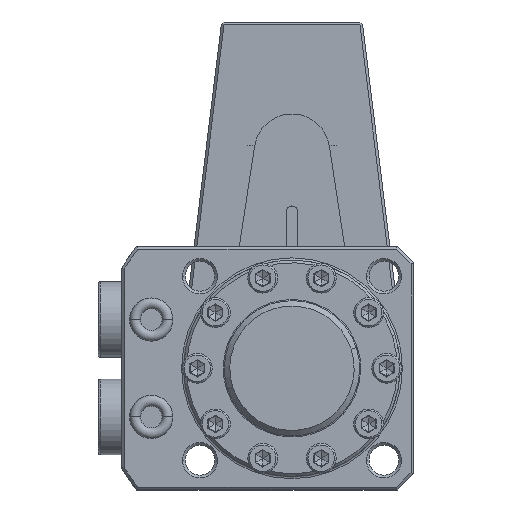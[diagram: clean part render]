
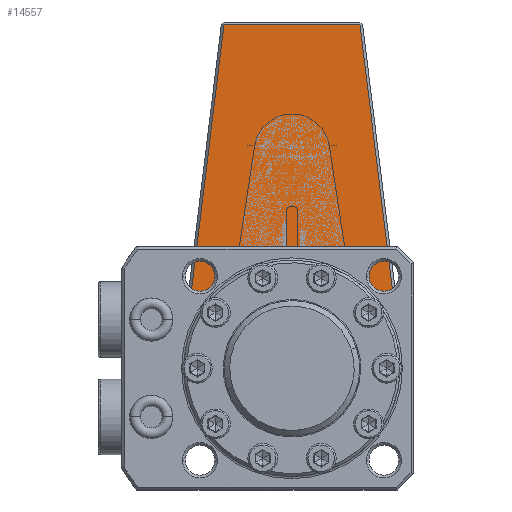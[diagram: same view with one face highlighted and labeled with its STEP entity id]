
A CAD part, front view. The second image highlights one B-rep face of the part: STEP entity #14557.
In plain terms, the highlighted planar face has unit normal (0, -1, 0).
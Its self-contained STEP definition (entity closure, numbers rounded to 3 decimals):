
#10786=DIRECTION('',(1.,0.,0.));
#10787=VECTOR('',#10786,10.824);
#10788=CARTESIAN_POINT('',(-20.5,-9.5,1.));
#10789=LINE('',#10788,#10787);
#10790=DIRECTION('',(0.,0.,-1.));
#10791=VECTOR('',#10790,10.5);
#10792=CARTESIAN_POINT('',(-20.5,-9.5,11.5));
#10793=LINE('',#10792,#10791);
#10794=DIRECTION('',(-0.707,0.,-0.707));
#10795=VECTOR('',#10794,1.414);
#10796=CARTESIAN_POINT('',(-19.5,-9.5,12.5));
#10797=LINE('',#10796,#10795);
#10798=DIRECTION('',(-1.,0.,0.));
#10799=VECTOR('',#10798,15.);
#10800=CARTESIAN_POINT('',(-4.5,-9.5,12.5));
#10801=LINE('',#10800,#10799);
#10802=DIRECTION('',(0.,0.,-1.));
#10803=VECTOR('',#10802,7.);
#10804=CARTESIAN_POINT('',(-4.5,-9.5,19.5));
#10805=LINE('',#10804,#10803);
#10806=DIRECTION('',(-1.,0.,0.));
#10807=VECTOR('',#10806,11.469);
#10808=CARTESIAN_POINT('',(6.969,-9.5,19.5));
#10809=LINE('',#10808,#10807);
#10810=DIRECTION('',(-0.993,0.,0.122));
#10811=VECTOR('',#10810,56.955);
#10812=CARTESIAN_POINT('',(63.5,-9.5,12.558));
#10813=LINE('',#10812,#10811);
#10814=DIRECTION('',(0.,0.,1.));
#10815=VECTOR('',#10814,25.115);
#10816=CARTESIAN_POINT('',(63.5,-9.5,-12.558));
#10817=LINE('',#10816,#10815);
#10818=DIRECTION('',(0.993,0.,0.122));
#10819=VECTOR('',#10818,56.955);
#10820=CARTESIAN_POINT('',(6.969,-9.5,-19.5));
#10821=LINE('',#10820,#10819);
#10822=DIRECTION('',(1.,0.,0.));
#10823=VECTOR('',#10822,11.469);
#10824=CARTESIAN_POINT('',(-4.5,-9.5,-19.5));
#10825=LINE('',#10824,#10823);
#10826=DIRECTION('',(0.,0.,-1.));
#10827=VECTOR('',#10826,7.);
#10828=CARTESIAN_POINT('',(-4.5,-9.5,-12.5));
#10829=LINE('',#10828,#10827);
#10830=DIRECTION('',(1.,0.,0.));
#10831=VECTOR('',#10830,15.);
#10832=CARTESIAN_POINT('',(-19.5,-9.5,-12.5));
#10833=LINE('',#10832,#10831);
#10834=DIRECTION('',(0.707,0.,-0.707));
#10835=VECTOR('',#10834,1.414);
#10836=CARTESIAN_POINT('',(-20.5,-9.5,-11.5));
#10837=LINE('',#10836,#10835);
#10838=DIRECTION('',(0.,0.,-1.));
#10839=VECTOR('',#10838,10.5);
#10840=CARTESIAN_POINT('',(-20.5,-9.5,-1.));
#10841=LINE('',#10840,#10839);
#10842=DIRECTION('',(1.,0.,0.));
#10843=VECTOR('',#10842,10.824);
#10844=CARTESIAN_POINT('',(-20.5,-9.5,-1.));
#10845=LINE('',#10844,#10843);
#10851=CARTESIAN_POINT('',(0.,-9.5,0.));
#10852=DIRECTION('',(0.,1.,0.));
#10853=DIRECTION('',(-0.995,0.,0.103));
#10854=AXIS2_PLACEMENT_3D('',#10851,#10852,#10853);
#10960=CARTESIAN_POINT('',(-9.676,-9.5,
-1.));
#11260=CARTESIAN_POINT('',(-9.676,-9.5,
1.));
#14209=CARTESIAN_POINT('',(-19.5,-9.5,12.5));
#14211=VERTEX_POINT('',#14209);
#14215=CARTESIAN_POINT('',(-4.5,-9.5,12.5));
#14216=VERTEX_POINT('',#14215);
#14221=CARTESIAN_POINT('',(63.5,-9.5,-12.558));
#14222=CARTESIAN_POINT('',(63.5,-9.5,12.558));
#14223=VERTEX_POINT('',#14221);
#14224=VERTEX_POINT('',#14222);
#14234=CARTESIAN_POINT('',(-19.5,-9.5,-12.5));
#14236=VERTEX_POINT('',#14234);
#14237=CARTESIAN_POINT('',(-4.5,-9.5,-12.5));
#14238=VERTEX_POINT('',#14237);
#14257=CARTESIAN_POINT('',(-20.5,-9.5,-11.5));
#14259=VERTEX_POINT('',#14257);
#14263=CARTESIAN_POINT('',(-20.5,-9.5,-1.));
#14264=VERTEX_POINT('',#14263);
#14265=CARTESIAN_POINT('',(-20.5,-9.5,1.));
#14267=VERTEX_POINT('',#14265);
#14271=CARTESIAN_POINT('',(-20.5,-9.5,11.5));
#14272=VERTEX_POINT('',#14271);
#14274=VERTEX_POINT('',#11260);
#14275=VERTEX_POINT('',#10960);
#14323=CARTESIAN_POINT('',(-4.5,-9.5,-19.5));
#14324=VERTEX_POINT('',#14323);
#14325=CARTESIAN_POINT('',(6.969,-9.5,-19.5));
#14326=VERTEX_POINT('',#14325);
#14351=CARTESIAN_POINT('',(6.969,-9.5,19.5));
#14352=VERTEX_POINT('',#14351);
#14353=CARTESIAN_POINT('',(-4.5,-9.5,19.5));
#14354=VERTEX_POINT('',#14353);
#14518=CARTESIAN_POINT('',(0.,-9.5,0.));
#14519=DIRECTION('',(0.,1.,0.));
#14520=DIRECTION('',(1.,0.,0.));
#14521=AXIS2_PLACEMENT_3D('',#14518,#14519,#14520);
#14522=PLANE('',#14521);
#14524=ORIENTED_EDGE('',*,*,#14523,.F.);
#14526=ORIENTED_EDGE('',*,*,#14525,.F.);
#14528=ORIENTED_EDGE('',*,*,#14527,.F.);
#14530=ORIENTED_EDGE('',*,*,#14529,.F.);
#14532=ORIENTED_EDGE('',*,*,#14531,.F.);
#14534=ORIENTED_EDGE('',*,*,#14533,.F.);
#14536=ORIENTED_EDGE('',*,*,#14535,.F.);
#14538=ORIENTED_EDGE('',*,*,#14537,.F.);
#14540=ORIENTED_EDGE('',*,*,#14539,.F.);
#14542=ORIENTED_EDGE('',*,*,#14541,.F.);
#14544=ORIENTED_EDGE('',*,*,#14543,.F.);
#14546=ORIENTED_EDGE('',*,*,#14545,.F.);
#14548=ORIENTED_EDGE('',*,*,#14547,.F.);
#14550=ORIENTED_EDGE('',*,*,#14549,.F.);
#14552=ORIENTED_EDGE('',*,*,#14551,.F.);
#14554=ORIENTED_EDGE('',*,*,#14553,.T.);
#14555=EDGE_LOOP('',(#14524,#14526,#14528,#14530,#14532,#14534,#14536,#14538,
#14540,#14542,#14544,#14546,#14548,#14550,#14552,#14554));
#14556=FACE_OUTER_BOUND('',#14555,.F.);
#14557=ADVANCED_FACE('',(#14556),#14522,.F.);
#10855=CIRCLE('',#10854,9.728);
#14523=EDGE_CURVE('',#14274,#14275,#10855,.T.);
#14525=EDGE_CURVE('',#14267,#14274,#10789,.T.);
#14527=EDGE_CURVE('',#14272,#14267,#10793,.T.);
#14529=EDGE_CURVE('',#14211,#14272,#10797,.T.);
#14531=EDGE_CURVE('',#14216,#14211,#10801,.T.);
#14533=EDGE_CURVE('',#14354,#14216,#10805,.T.);
#14535=EDGE_CURVE('',#14352,#14354,#10809,.T.);
#14537=EDGE_CURVE('',#14224,#14352,#10813,.T.);
#14539=EDGE_CURVE('',#14223,#14224,#10817,.T.);
#14541=EDGE_CURVE('',#14326,#14223,#10821,.T.);
#14543=EDGE_CURVE('',#14324,#14326,#10825,.T.);
#14545=EDGE_CURVE('',#14238,#14324,#10829,.T.);
#14547=EDGE_CURVE('',#14236,#14238,#10833,.T.);
#14549=EDGE_CURVE('',#14259,#14236,#10837,.T.);
#14551=EDGE_CURVE('',#14264,#14259,#10841,.T.);
#14553=EDGE_CURVE('',#14264,#14275,#10845,.T.);
